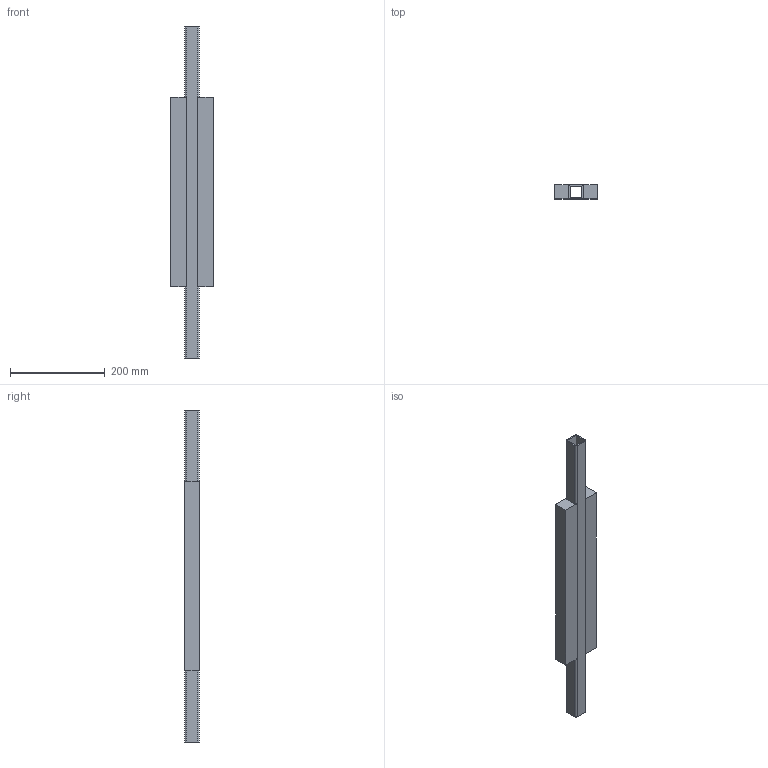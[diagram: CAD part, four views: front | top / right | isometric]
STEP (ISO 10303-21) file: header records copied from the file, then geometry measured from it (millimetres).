
FILE_DESCRIPTION (( 'STEP AP214' ), '1' );
FILE_NAME ('0006624_0_00.step', '2018-07-12T09:02:01', ( '' ), ( '' ), 'SwSTEP 2.0', 'SolidWorks 2018', '' );
FILE_SCHEMA (( 'AUTOMOTIVE_DESIGN' ));
Length unit declared in the file: millimetre
Products named in the file (3): 0006624_0_00; 0006624_0_02_2 lame L=400; 0006624_0_01_2 lame L=400
Assembly tree (2 placements, depth 2):
  0006624_0_00
    0006624_0_01_2 lame L=400
    0006624_0_02_2 lame L=400
Bounding box: 90 x 30 x 700 mm (x, y, z)
Volume: 944482.3 mm3; surface area: 255382.5 mm2
Topology: 3 solids, 3 shells, 30 faces, 72 edges, 48 vertices
Faces by surface type: plane 22, cylinder 8
Entity records: 1149 total; most frequent: DIRECTION 158, CARTESIAN_POINT 155, ORIENTED_EDGE 144, EDGE_CURVE 72, LINE 56, VECTOR 56, AXIS2_PLACEMENT_3D 51, VERTEX_POINT 48
